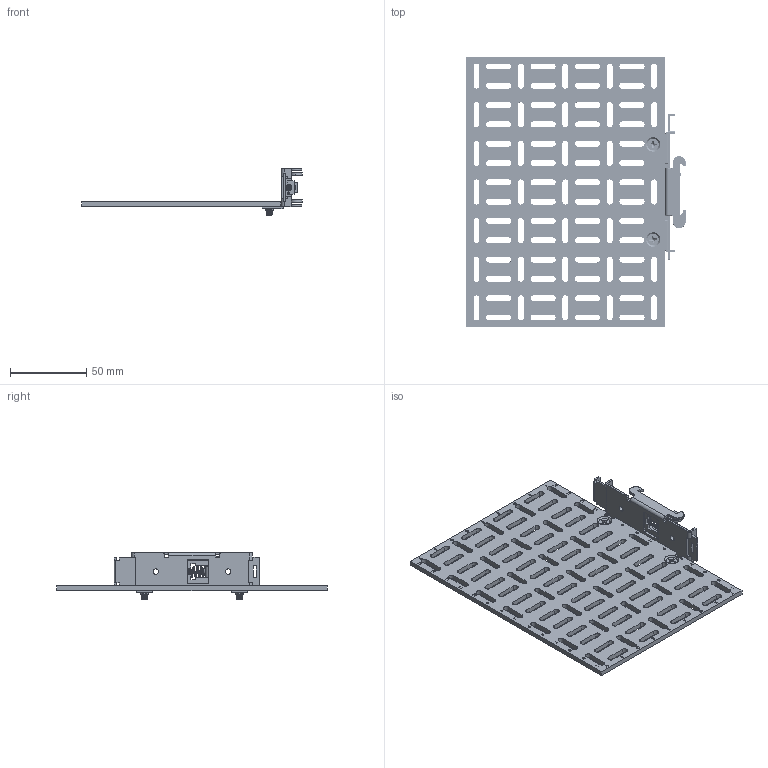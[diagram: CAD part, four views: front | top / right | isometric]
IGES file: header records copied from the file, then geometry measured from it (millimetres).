
Start section: SolidWorks IGES file using analytic representation for surfaces
Global section: file name: D:\Documents\Winford Engineering Jobs\Din Plate 03\DINP03-5270C\dinp03-5270c_rev_a.igs; native system: SolidWorks 2017; preprocessor: SolidWorks 2017; author: mudhf; date: 200505.135542; units: inch
Bounding box: 144.88 x 177.8 x 30.82 mm (x, y, z)
Surface area: 59717.1 mm2 (no closed solid volume)
Topology: 0 solids, 0 shells, 3240 faces, 23791 edges, 23776 vertices
Faces by surface type: bspline 2661, revolution 579
